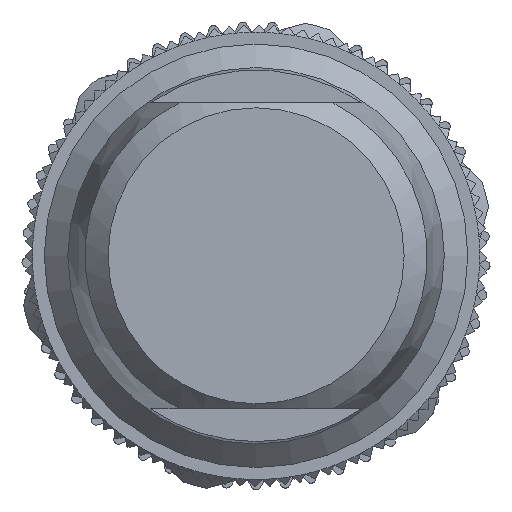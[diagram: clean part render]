
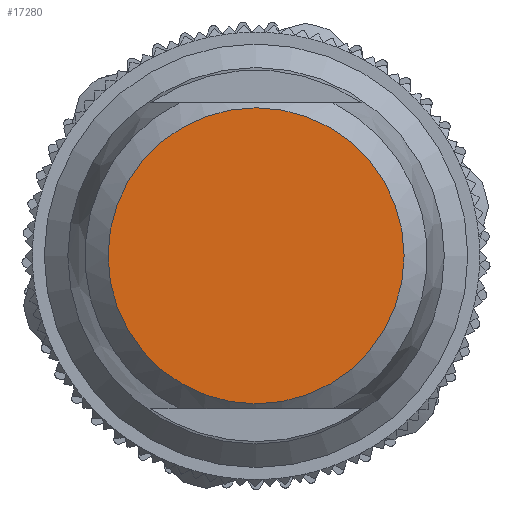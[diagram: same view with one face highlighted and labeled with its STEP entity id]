
A CAD part, left-side view. The second image highlights one B-rep face of the part: STEP entity #17280.
In plain terms, the highlighted planar face has unit normal (-1, 0, 0).
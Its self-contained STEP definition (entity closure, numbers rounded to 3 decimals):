
#245=PLANE('',#18340);
#2467=CIRCLE('',#18341,6.29);
#3343=ORIENTED_EDGE('',*,*,#7049,.F.);
#7049=EDGE_CURVE('',#8799,#8799,#2467,.T.);
#8799=VERTEX_POINT('',#24454);
#10185=EDGE_LOOP('',(#3343));
#10994=FACE_BOUND('',#10185,.T.);
#17280=ADVANCED_FACE('',(#10994),#245,.F.);
#18340=AXIS2_PLACEMENT_3D('',#24452,#20173,#20174);
#18341=AXIS2_PLACEMENT_3D('',#24453,#20175,#20176);
#20173=DIRECTION('',(1.,0.,0.));
#20174=DIRECTION('',(0.,0.,-1.));
#20175=DIRECTION('',(1.,0.,0.));
#20176=DIRECTION('',(0.,0.,-1.));
#24452=CARTESIAN_POINT('',(0.,0.,0.));
#24453=CARTESIAN_POINT('',(0.,0.,0.));
#24454=CARTESIAN_POINT('',(0.,0.,-6.29));
